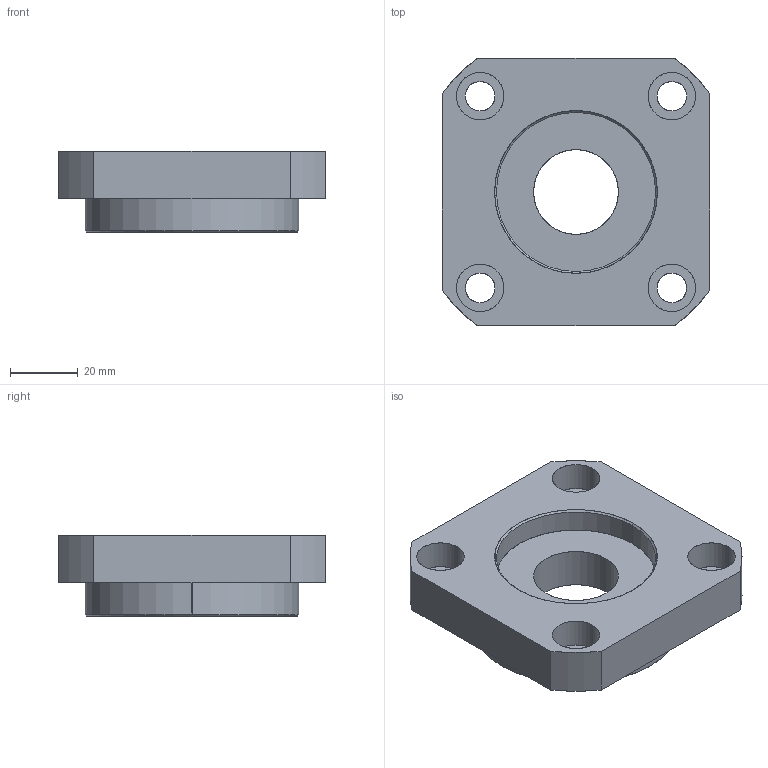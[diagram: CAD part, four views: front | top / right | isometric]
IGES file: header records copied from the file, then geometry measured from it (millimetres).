
Start section: SolidWorks IGES file using analytic representation for surfaces
Global section: file name: E:\同创达图纸\产品示意图\3D选型图\支撑座\FF系列\FF25.IGS; native system: SolidWorks 2012; preprocessor: SolidWorks 2012; author: gao; date: 130702.203803; units: millimetre
Bounding box: 79 x 79 x 24 mm (x, y, z)
Surface area: 21363.6 mm2 (no closed solid volume)
Topology: 0 solids, 0 shells, 47 faces, 1152 edges, 1152 vertices
Faces by surface type: revolution 34, bspline 13
